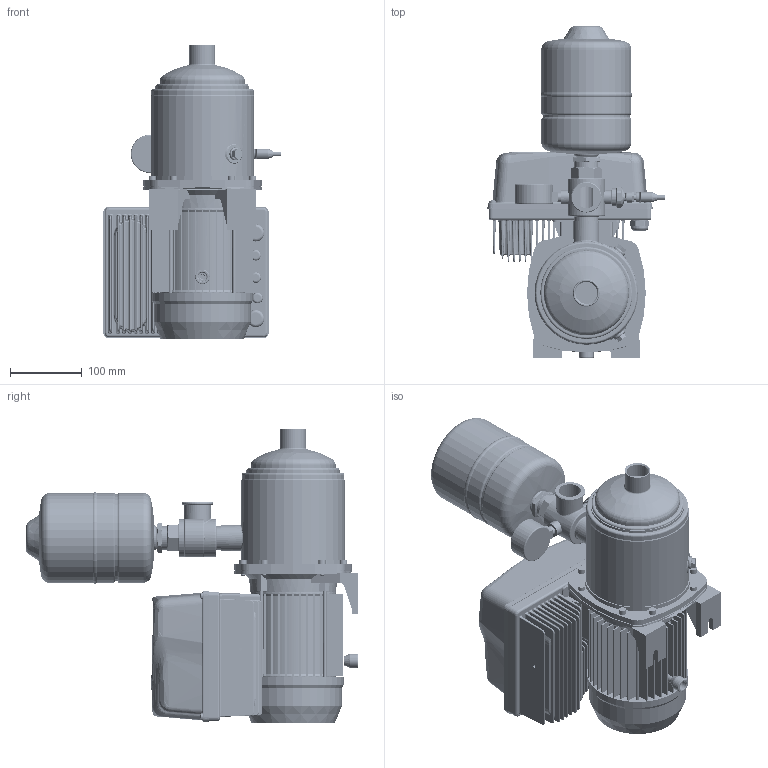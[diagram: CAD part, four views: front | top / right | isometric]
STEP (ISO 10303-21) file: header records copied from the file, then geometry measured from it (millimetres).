
FILE_DESCRIPTION((''),'2;1');
FILE_NAME('1GPE_MATRIX_3-5T_0-75_ESPM_ASM','2024-12-02T12:12:34',('Utente'),('"Ebara Pumps Europe S.p.A"'),'CREO PARAMETRIC BY PTC INC, 2022124','CREO PARAMETRIC BY PTC INC, 2022124','');
FILE_SCHEMA(('AUTOMOTIVE_DESIGN { 1 0 10303 214 1 1 1 1 }'));
Length unit declared in the file: millimetre
Products named in the file (14): EP_MATRIX_3-5T_0-75_IE3; EP_MATRIX_3-5T_0-75_ASM; ADATTATORE_E-SPD_MEC71; E-SPD_ADATTATORE_MEC71_ASM; BACK_E-SPD_PLUS_2200-4000; COVER_E-SPD_PLUS_2200-4000; COM_E-SPDM_MEC80-90-100_ORIZ_ASM; RACC_5_VIE_NR_1_A304; TRASD_ASHCROFT_M12_GEN; CABLE_M12_FEMALE; TRASD_ASHCROFT_10B_MP_362331051_ASM; MAN_RAD_D50_10BAR_361600160; VASO_ESPANSIONE_2L_GWS; 1GPE_MATRIX_3-5T_0-75_ESPM_ASM
Assembly tree (13 placements, depth 3):
  1GPE_MATRIX_3-5T_0-75_ESPM_ASM
    EP_MATRIX_3-5T_0-75_ASM
      EP_MATRIX_3-5T_0-75_IE3
    E-SPD_ADATTATORE_MEC71_ASM
      ADATTATORE_E-SPD_MEC71
    COM_E-SPDM_MEC80-90-100_ORIZ_ASM
      BACK_E-SPD_PLUS_2200-4000
      COVER_E-SPD_PLUS_2200-4000
    RACC_5_VIE_NR_1_A304
    TRASD_ASHCROFT_10B_MP_362331051_ASM
      TRASD_ASHCROFT_M12_GEN
      CABLE_M12_FEMALE
    MAN_RAD_D50_10BAR_361600160
    VASO_ESPANSIONE_2L_GWS
Bounding box: 246.19 x 461.11 x 407.8 mm (x, y, z)
Volume: 4431199.1 mm3; surface area: 1263195.9 mm2
Topology: 92 solids, 512 shells, 11949 faces, 30394 edges, 18056 vertices
Faces by surface type: plane 6025, cylinder 2610, sphere 1037, bspline 946, cone 492, extrusion 435, torus 404
Entity records: 485654 total; most frequent: CARTESIAN_POINT 172730, ORIENTED_EDGE 55973, DIRECTION 53102, EDGE_CURVE 28927, VERTEX_POINT 17936, VECTOR 17886, AXIS2_PLACEMENT_3D 17589, LINE 17451
